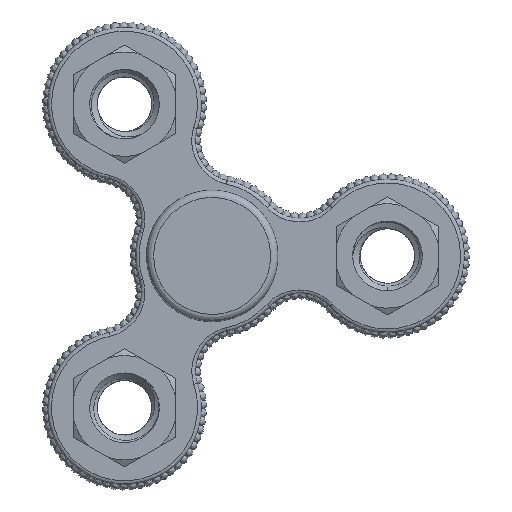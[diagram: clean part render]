
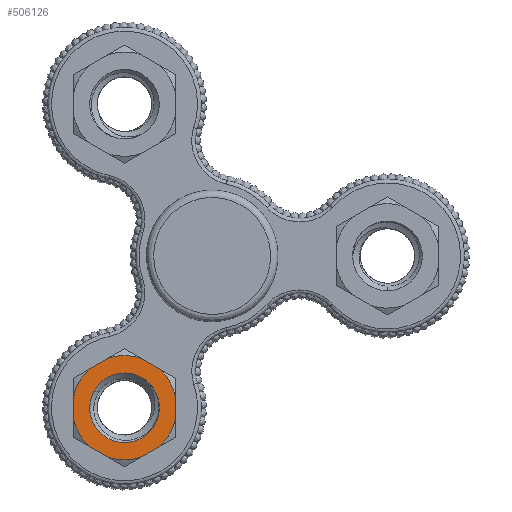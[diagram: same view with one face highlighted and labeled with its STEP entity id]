
A CAD part, top view. The second image highlights one B-rep face of the part: STEP entity #506126.
In plain terms, the highlighted free-form (B-spline) face has degree [1, 1] with [2, 2] control points.
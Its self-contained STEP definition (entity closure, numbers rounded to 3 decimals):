
#503576 = CARTESIAN_POINT ('', (-15.572, -14.598, 10.167));
#503577 = VERTEX_POINT ('', #503576);
#503591 = CARTESIAN_POINT ('', (-19.144, -20.785, 10.167));
#503592 = VERTEX_POINT ('', #503591);
#503602 = CARTESIAN_POINT ('', (-15.572, -14.598, 10.167));
#503603 = CARTESIAN_POINT ('', (-19.144, -16.66, 10.167));
#503604 = CARTESIAN_POINT ('', (-19.144, -20.785, 10.167));
#503605 = (
   BOUNDED_CURVE ()
   B_SPLINE_CURVE (2, (#503602, #503603, #503604), .UNSPECIFIED., .F., .U.)
   B_SPLINE_CURVE_WITH_KNOTS ((3, 3), (240., 300.), .UNSPECIFIED.)
   CURVE ()
   GEOMETRIC_REPRESENTATION_ITEM ()
   RATIONAL_B_SPLINE_CURVE ((1., 0.866, 1.))
   REPRESENTATION_ITEM ('')
);
#503606 = EDGE_CURVE ('', #503577, #503592, #503605, .T.);
#504341 = CARTESIAN_POINT ('', (-7.4, -19.552, 10.167));
#504342 = VERTEX_POINT ('', #504341);
#504353 = CARTESIAN_POINT ('', (-9.619, -16.66, 10.167));
#504354 = VERTEX_POINT ('', #504353);
#504355 = CARTESIAN_POINT ('', (-7.4, -19.552, 10.167));
#504356 = CARTESIAN_POINT ('', (-7.91, -17.647, 10.167));
#504357 = CARTESIAN_POINT ('', (-9.619, -16.66, 10.167));
#504358 = (
   BOUNDED_CURVE ()
   B_SPLINE_CURVE (2, (#504355, #504356, #504357), .UNSPECIFIED., .F., .U.)
   B_SPLINE_CURVE_WITH_KNOTS ((3, 3), (135., 180.), .UNSPECIFIED.)
   CURVE ()
   GEOMETRIC_REPRESENTATION_ITEM ()
   RATIONAL_B_SPLINE_CURVE ((1., 0.924, 1.))
   REPRESENTATION_ITEM ('')
);
#504359 = EDGE_CURVE ('', #504342, #504354, #504358, .T.);
#504808 = CARTESIAN_POINT ('', (-16.124, -18.403, 10.167));
#504809 = VERTEX_POINT ('', #504808);
#504810 = CARTESIAN_POINT ('', (-9.619, -16.66, 10.167));
#504811 = CARTESIAN_POINT ('', (-13.743, -14.279, 10.167));
#504812 = CARTESIAN_POINT ('', (-16.124, -18.403, 10.167));
#504813 = (
   BOUNDED_CURVE ()
   B_SPLINE_CURVE (2, (#504810, #504811, #504812), .UNSPECIFIED., .F., .U.)
   B_SPLINE_CURVE_WITH_KNOTS ((3, 3), (180., 270.), .UNSPECIFIED.)
   CURVE ()
   GEOMETRIC_REPRESENTATION_ITEM ()
   RATIONAL_B_SPLINE_CURVE ((1., 0.707, 1.))
   REPRESENTATION_ITEM ('')
);
#504814 = EDGE_CURVE ('', #504354, #504809, #504813, .T.);
#505243 = CARTESIAN_POINT ('', (-7.876, -23.166, 10.167));
#505244 = VERTEX_POINT ('', #505243);
#505250 = CARTESIAN_POINT ('', (-7.876, -23.166, 10.167));
#505251 = CARTESIAN_POINT ('', (-6.889, -21.457, 10.167));
#505252 = CARTESIAN_POINT ('', (-7.4, -19.552, 10.167));
#505253 = (
   BOUNDED_CURVE ()
   B_SPLINE_CURVE (2, (#505250, #505251, #505252), .UNSPECIFIED., .F., .U.)
   B_SPLINE_CURVE_WITH_KNOTS ((3, 3), (90., 135.), .UNSPECIFIED.)
   CURVE ()
   GEOMETRIC_REPRESENTATION_ITEM ()
   RATIONAL_B_SPLINE_CURVE ((1., 0.924, 1.))
   REPRESENTATION_ITEM ('')
);
#505254 = EDGE_CURVE ('', #505244, #504342, #505253, .T.);
#505272 = CARTESIAN_POINT ('', (-16.124, -18.403, 10.167));
#505273 = CARTESIAN_POINT ('', (-18.506, -22.528, 10.167));
#505274 = CARTESIAN_POINT ('', (-14.381, -24.909, 10.167));
#505275 = CARTESIAN_POINT ('', (-10.257, -27.29, 10.167));
#505276 = CARTESIAN_POINT ('', (-7.876, -23.166, 10.167));
#505277 = (
   BOUNDED_CURVE ()
   B_SPLINE_CURVE (2, (#505272, #505273, #505274, #505275, #505276), .UNSPECIFIED., .F., .U.)
   B_SPLINE_CURVE_WITH_KNOTS ((3, 2, 3), (270., 360., 450.), .UNSPECIFIED.)
   CURVE ()
   GEOMETRIC_REPRESENTATION_ITEM ()
   RATIONAL_B_SPLINE_CURVE ((1., 0.707, 1., 0.707, 1.))
   REPRESENTATION_ITEM ('')
);
#505278 = EDGE_CURVE ('', #504809, #505244, #505277, .T.);
#505706 = CARTESIAN_POINT ('', (-15.572, -26.971, 10.167));
#505707 = VERTEX_POINT ('', #505706);
#505760 = CARTESIAN_POINT ('', (-8.428, -26.971, 10.167));
#505761 = VERTEX_POINT ('', #505760);
#505820 = CARTESIAN_POINT ('', (-4.856, -20.785, 10.167));
#505821 = VERTEX_POINT ('', #505820);
#505872 = CARTESIAN_POINT ('', (-8.428, -14.598, 10.167));
#505873 = VERTEX_POINT ('', #505872);
#505883 = CARTESIAN_POINT ('', (-4.856, -20.785, 10.167));
#505884 = CARTESIAN_POINT ('', (-4.856, -16.66, 10.167));
#505885 = CARTESIAN_POINT ('', (-8.428, -14.598, 10.167));
#505886 = (
   BOUNDED_CURVE ()
   B_SPLINE_CURVE (2, (#505883, #505884, #505885), .UNSPECIFIED., .F., .U.)
   B_SPLINE_CURVE_WITH_KNOTS ((3, 3), (120., 180.), .UNSPECIFIED.)
   CURVE ()
   GEOMETRIC_REPRESENTATION_ITEM ()
   RATIONAL_B_SPLINE_CURVE ((1., 0.866, 1.))
   REPRESENTATION_ITEM ('')
);
#505887 = EDGE_CURVE ('', #505821, #505873, #505886, .T.);
#505904 = CARTESIAN_POINT ('', (-8.428, -26.971, 10.167));
#505905 = CARTESIAN_POINT ('', (-4.856, -24.909, 10.167));
#505906 = CARTESIAN_POINT ('', (-4.856, -20.785, 10.167));
#505907 = (
   BOUNDED_CURVE ()
   B_SPLINE_CURVE (2, (#505904, #505905, #505906), .UNSPECIFIED., .F., .U.)
   B_SPLINE_CURVE_WITH_KNOTS ((3, 3), (60., 120.), .UNSPECIFIED.)
   CURVE ()
   GEOMETRIC_REPRESENTATION_ITEM ()
   RATIONAL_B_SPLINE_CURVE ((1., 0.866, 1.))
   REPRESENTATION_ITEM ('')
);
#505908 = EDGE_CURVE ('', #505761, #505821, #505907, .T.);
#505937 = CARTESIAN_POINT ('', (-19.144, -20.785, 10.167));
#505938 = CARTESIAN_POINT ('', (-19.144, -24.909, 10.167));
#505939 = CARTESIAN_POINT ('', (-15.572, -26.971, 10.167));
#505940 = (
   BOUNDED_CURVE ()
   B_SPLINE_CURVE (2, (#505937, #505938, #505939), .UNSPECIFIED., .F., .U.)
   B_SPLINE_CURVE_WITH_KNOTS ((3, 3), (300., 360.), .UNSPECIFIED.)
   CURVE ()
   GEOMETRIC_REPRESENTATION_ITEM ()
   RATIONAL_B_SPLINE_CURVE ((1., 0.866, 1.))
   REPRESENTATION_ITEM ('')
);
#505941 = EDGE_CURVE ('', #503592, #505707, #505940, .T.);
#505959 = CARTESIAN_POINT ('', (-15.572, -26.971, 10.167));
#505960 = CARTESIAN_POINT ('', (-12., -29.034, 10.167));
#505961 = CARTESIAN_POINT ('', (-8.428, -26.971, 10.167));
#505962 = (
   BOUNDED_CURVE ()
   B_SPLINE_CURVE (2, (#505959, #505960, #505961), .UNSPECIFIED., .F., .U.)
   B_SPLINE_CURVE_WITH_KNOTS ((3, 3), (0., 60.), .UNSPECIFIED.)
   CURVE ()
   GEOMETRIC_REPRESENTATION_ITEM ()
   RATIONAL_B_SPLINE_CURVE ((1., 0.866, 1.))
   REPRESENTATION_ITEM ('')
);
#505963 = EDGE_CURVE ('', #505707, #505761, #505962, .T.);
#506087 = CARTESIAN_POINT ('', (-8.428, -14.598, 10.167));
#506088 = CARTESIAN_POINT ('', (-12., -12.536, 10.167));
#506089 = CARTESIAN_POINT ('', (-15.572, -14.598, 10.167));
#506090 = (
   BOUNDED_CURVE ()
   B_SPLINE_CURVE (2, (#506087, #506088, #506089), .UNSPECIFIED., .F., .U.)
   B_SPLINE_CURVE_WITH_KNOTS ((3, 3), (180., 240.), .UNSPECIFIED.)
   CURVE ()
   GEOMETRIC_REPRESENTATION_ITEM ()
   RATIONAL_B_SPLINE_CURVE ((1., 0.866, 1.))
   REPRESENTATION_ITEM ('')
);
#506091 = EDGE_CURVE ('', #505873, #503577, #506090, .T.);
#506107 = ORIENTED_EDGE ('', *, *, #505887, .T.);
#506108 = ORIENTED_EDGE ('', *, *, #506091, .T.);
#506109 = ORIENTED_EDGE ('', *, *, #503606, .T.);
#506110 = ORIENTED_EDGE ('', *, *, #505941, .T.);
#506111 = ORIENTED_EDGE ('', *, *, #505963, .T.);
#506112 = ORIENTED_EDGE ('', *, *, #505908, .T.);
#506113 = EDGE_LOOP ('', (#506107, #506108, #506109, #506110, #506111, #506112));
#506114 = FACE_OUTER_BOUND ('', #506113, .T.);
#506115 = ORIENTED_EDGE ('', *, *, #505254, .F.);
#506116 = ORIENTED_EDGE ('', *, *, #505278, .F.);
#506117 = ORIENTED_EDGE ('', *, *, #504814, .F.);
#506118 = ORIENTED_EDGE ('', *, *, #504359, .F.);
#506119 = EDGE_LOOP ('', (#506115, #506116, #506117, #506118));
#506120 = FACE_BOUND ('', #506119, .T.);
#506121 = CARTESIAN_POINT ('', (-15.581, -10.439, 10.167));
#506122 = CARTESIAN_POINT ('', (-1.25, -18.713, 10.167));
#506123 = CARTESIAN_POINT ('', (-22.75, -22.856, 10.167));
#506124 = CARTESIAN_POINT ('', (-8.419, -31.13, 10.167));
#506125 = B_SPLINE_SURFACE_WITH_KNOTS ('', 1, 1, ((#506121, #506122), (#506123, #506124)), .UNSPECIFIED., .F., .F., .U., (2, 2), (2, 2), (-0.001, 0.564), (-0.488, 0.163), .UNSPECIFIED.);
#506126 = ADVANCED_FACE ('', (#506114, #506120), #506125, .T.);
